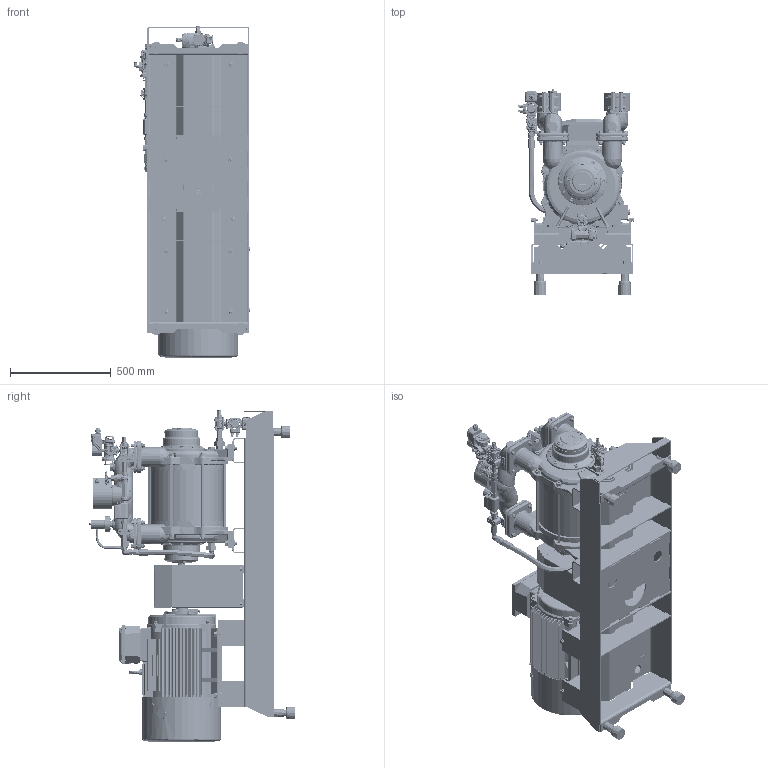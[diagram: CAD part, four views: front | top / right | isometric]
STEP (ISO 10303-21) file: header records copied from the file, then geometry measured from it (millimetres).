
FILE_DESCRIPTION(/* description */ (''),/* implementation_level */ '2;1');
FILE_NAME(/* name */ '1700141.stp',/* time_stamp */ '2025-04-30T14:17:19+02:00',/* author */ ('JJ'),/* organization */ (''),/* preprocessor_version */ 'ST-DEVELOPER v20',/* originating_system */ 'Autodesk Inventor 2025',/* authorisation */ '');
FILE_SCHEMA (('AUTOMOTIVE_DESIGN { 1 0 10303 214 3 1 1 }'));
Products named in the file (1): 1700141
Bounding box: 579.35 x 1025.65 x 1650.64 mm (x, y, z)
Volume: 105562083.6 mm3; surface area: 13403571.8 mm2
Topology: 230 solids, 230 shells, 25503 faces, 65705 edges, 41711 vertices
Faces by surface type: plane 11961, cylinder 5368, bspline 4179, cone 2197, torus 1621, sphere 177
Full cylindrical faces by diameter (mm): 0.8 x1, 0.847 x2, 0.857 x2, 1.656 x4, 1.7 x4, 1.8 x4, 2 x20, 2.2 x1, 2.5 x8, 3 x4, 3.2 x2, 3.3 x4, 3.6 x4, 4 x4, 4.134 x8, 4.2 x16, 4.3 x8, 4.45 x3, 4.567 x8, 4.917 x15, 4.92 x4, 5 x12, 5.3 x8, 5.6 x16, 6 x50, 6.1 x1, 6.4 x9, 6.5 x12, 6.647 x2, 6.7 x16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
Entity records: 1216508 total; most frequent: CARTESIAN_POINT 597927, ORIENTED_EDGE 130970, DIRECTION 111520, EDGE_CURVE 65485, VERTEX_POINT 41725, AXIS2_PLACEMENT_3D 38618, LINE 34284, VECTOR 34284
